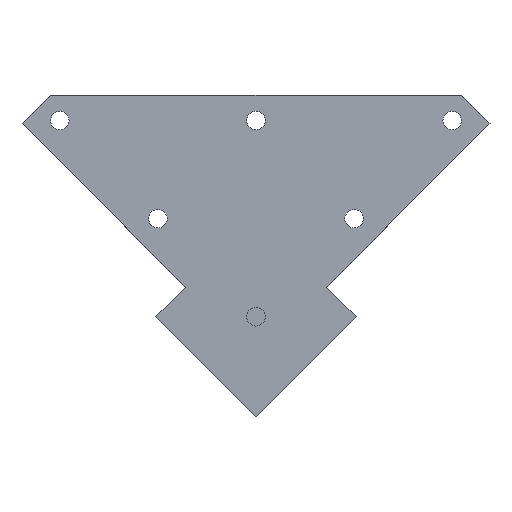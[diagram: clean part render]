
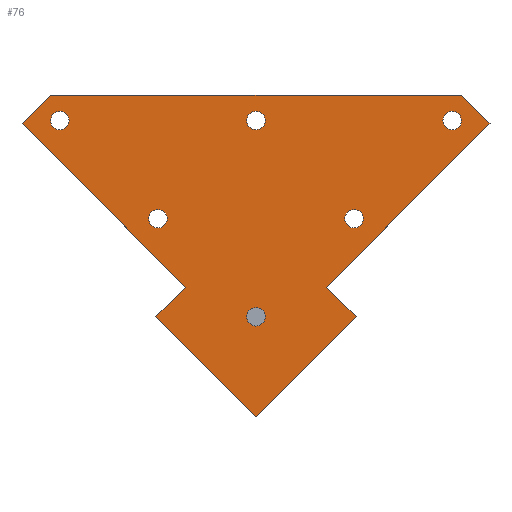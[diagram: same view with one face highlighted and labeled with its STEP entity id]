
A CAD part, top view. The second image highlights one B-rep face of the part: STEP entity #76.
In plain terms, the highlighted planar face has unit normal (0, 0, 1).
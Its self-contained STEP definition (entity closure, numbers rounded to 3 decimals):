
#76 = ADVANCED_FACE( '', ( #174, #175, #176, #177, #178, #179, #180 ), #181, .T. );
#174 = FACE_BOUND( '', #292, .T. );
#175 = FACE_BOUND( '', #293, .T. );
#176 = FACE_BOUND( '', #294, .T. );
#177 = FACE_BOUND( '', #295, .T. );
#178 = FACE_BOUND( '', #296, .T. );
#179 = FACE_BOUND( '', #297, .T. );
#180 = FACE_OUTER_BOUND( '', #298, .T. );
#181 = PLANE( '', #299 );
#292 = EDGE_LOOP( '', ( #461 ) );
#293 = EDGE_LOOP( '', ( #462 ) );
#294 = EDGE_LOOP( '', ( #463 ) );
#295 = EDGE_LOOP( '', ( #464 ) );
#296 = EDGE_LOOP( '', ( #465 ) );
#297 = EDGE_LOOP( '', ( #466 ) );
#298 = EDGE_LOOP( '', ( #467, #468, #469, #470, #471, #472, #473, #474, #475 ) );
#299 = AXIS2_PLACEMENT_3D( '', #476, #477, #478 );
#461 = ORIENTED_EDGE( '', *, *, #664, .F. );
#462 = ORIENTED_EDGE( '', *, *, #668, .F. );
#463 = ORIENTED_EDGE( '', *, *, #669, .F. );
#464 = ORIENTED_EDGE( '', *, *, #670, .F. );
#465 = ORIENTED_EDGE( '', *, *, #671, .F. );
#466 = ORIENTED_EDGE( '', *, *, #666, .F. );
#467 = ORIENTED_EDGE( '', *, *, #640, .T. );
#468 = ORIENTED_EDGE( '', *, *, #672, .T. );
#469 = ORIENTED_EDGE( '', *, *, #673, .T. );
#470 = ORIENTED_EDGE( '', *, *, #650, .T. );
#471 = ORIENTED_EDGE( '', *, *, #674, .T. );
#472 = ORIENTED_EDGE( '', *, *, #675, .T. );
#473 = ORIENTED_EDGE( '', *, *, #676, .T. );
#474 = ORIENTED_EDGE( '', *, *, #677, .T. );
#475 = ORIENTED_EDGE( '', *, *, #618, .T. );
#476 = CARTESIAN_POINT( '', ( 0., 0., 2. ) );
#477 = DIRECTION( '', ( 0., 0., 1. ) );
#478 = DIRECTION( '', ( 1., 0., 0. ) );
#618 = EDGE_CURVE( '', #720, #718, #721, .T. );
#640 = EDGE_CURVE( '', #718, #758, #760, .T. );
#650 = EDGE_CURVE( '', #775, #773, #776, .T. );
#664 = EDGE_CURVE( '', #796, #796, #797, .T. );
#666 = EDGE_CURVE( '', #799, #799, #800, .T. );
#668 = EDGE_CURVE( '', #802, #802, #803, .T. );
#669 = EDGE_CURVE( '', #804, #804, #805, .T. );
#670 = EDGE_CURVE( '', #806, #806, #807, .T. );
#671 = EDGE_CURVE( '', #808, #808, #809, .T. );
#672 = EDGE_CURVE( '', #758, #810, #811, .T. );
#673 = EDGE_CURVE( '', #810, #775, #812, .T. );
#674 = EDGE_CURVE( '', #773, #813, #814, .T. );
#675 = EDGE_CURVE( '', #813, #815, #816, .T. );
#676 = EDGE_CURVE( '', #815, #817, #818, .T. );
#677 = EDGE_CURVE( '', #817, #720, #819, .T. );
#718 = VERTEX_POINT( '', #866 );
#720 = VERTEX_POINT( '', #869 );
#721 = LINE( '', #870, #871 );
#758 = VERTEX_POINT( '', #921 );
#760 = LINE( '', #924, #925 );
#773 = VERTEX_POINT( '', #941 );
#775 = VERTEX_POINT( '', #944 );
#776 = LINE( '', #945, #946 );
#796 = VERTEX_POINT( '', #976 );
#797 = CIRCLE( '', #977, 3.2 );
#799 = VERTEX_POINT( '', #979 );
#800 = CIRCLE( '', #980, 3.2 );
#802 = VERTEX_POINT( '', #982 );
#803 = CIRCLE( '', #983, 3.2 );
#804 = VERTEX_POINT( '', #984 );
#805 = CIRCLE( '', #985, 3.2 );
#806 = VERTEX_POINT( '', #986 );
#807 = CIRCLE( '', #987, 3.2 );
#808 = VERTEX_POINT( '', #988 );
#809 = CIRCLE( '', #989, 3.2 );
#810 = VERTEX_POINT( '', #990 );
#811 = LINE( '', #991, #992 );
#812 = LINE( '', #993, #994 );
#813 = VERTEX_POINT( '', #995 );
#814 = LINE( '', #996, #997 );
#815 = VERTEX_POINT( '', #998 );
#816 = LINE( '', #999, #1000 );
#817 = VERTEX_POINT( '', #1001 );
#818 = LINE( '', #1002, #1003 );
#819 = LINE( '', #1004, #1005 );
#866 = CARTESIAN_POINT( '', ( -71.06, 76.72, 2. ) );
#869 = CARTESIAN_POINT( '', ( 71.06, 76.72, 2. ) );
#870 = CARTESIAN_POINT( '', ( 71.06, 76.72, 2. ) );
#871 = VECTOR( '', #1048, 1000. );
#921 = CARTESIAN_POINT( '', ( -80.966, 66.814, 2. ) );
#924 = CARTESIAN_POINT( '', ( -71.06, 76.72, 2. ) );
#925 = VECTOR( '', #1078, 1000. );
#941 = CARTESIAN_POINT( '', ( 0., -34.648, 2. ) );
#944 = CARTESIAN_POINT( '', ( -34.648, 0., 2. ) );
#945 = CARTESIAN_POINT( '', ( -34.648, 0., 2. ) );
#946 = VECTOR( '', #1089, 1000. );
#976 = CARTESIAN_POINT( '', ( -64.68, 67.88, 2. ) );
#977 = AXIS2_PLACEMENT_3D( '', #1100, #1101, #1102 );
#979 = CARTESIAN_POINT( '', ( 71.08, 67.88, 2. ) );
#980 = AXIS2_PLACEMENT_3D( '', #1103, #1104, #1105 );
#982 = CARTESIAN_POINT( '', ( -30.74, 33.94, 2. ) );
#983 = AXIS2_PLACEMENT_3D( '', #1106, #1107, #1108 );
#984 = CARTESIAN_POINT( '', ( 3.2, 0., 2. ) );
#985 = AXIS2_PLACEMENT_3D( '', #1109, #1110, #1111 );
#986 = CARTESIAN_POINT( '', ( 3.2, 67.88, 2. ) );
#987 = AXIS2_PLACEMENT_3D( '', #1112, #1113, #1114 );
#988 = CARTESIAN_POINT( '', ( 37.14, 33.94, 2. ) );
#989 = AXIS2_PLACEMENT_3D( '', #1115, #1116, #1117 );
#990 = CARTESIAN_POINT( '', ( -24.4, 10.248, 2. ) );
#991 = CARTESIAN_POINT( '', ( -80.966, 66.814, 2. ) );
#992 = VECTOR( '', #1118, 1000. );
#993 = CARTESIAN_POINT( '', ( -24.4, 10.248, 2. ) );
#994 = VECTOR( '', #1119, 1000. );
#995 = CARTESIAN_POINT( '', ( 34.648, 0., 2. ) );
#996 = CARTESIAN_POINT( '', ( 0., -34.648, 2. ) );
#997 = VECTOR( '', #1120, 1000. );
#998 = CARTESIAN_POINT( '', ( 24.4, 10.248, 2. ) );
#999 = CARTESIAN_POINT( '', ( 34.648, 0., 2. ) );
#1000 = VECTOR( '', #1121, 1000. );
#1001 = CARTESIAN_POINT( '', ( 80.966, 66.814, 2. ) );
#1002 = CARTESIAN_POINT( '', ( 24.4, 10.248, 2. ) );
#1003 = VECTOR( '', #1122, 1000. );
#1004 = CARTESIAN_POINT( '', ( 80.966, 66.814, 2. ) );
#1005 = VECTOR( '', #1123, 1000. );
#1048 = DIRECTION( '', ( -1., 0., 0. ) );
#1078 = DIRECTION( '', ( -0.707, -0.707, 0. ) );
#1089 = DIRECTION( '', ( 0.707, -0.707, 0. ) );
#1100 = CARTESIAN_POINT( '', ( -67.88, 67.88, 2. ) );
#1101 = DIRECTION( '', ( 0., 0., 1. ) );
#1102 = DIRECTION( '', ( 1., 0., 0. ) );
#1103 = CARTESIAN_POINT( '', ( 67.88, 67.88, 2. ) );
#1104 = DIRECTION( '', ( 0., 0., 1. ) );
#1105 = DIRECTION( '', ( 1., 0., 0. ) );
#1106 = CARTESIAN_POINT( '', ( -33.94, 33.94, 2. ) );
#1107 = DIRECTION( '', ( 0., 0., 1. ) );
#1108 = DIRECTION( '', ( 1., 0., 0. ) );
#1109 = CARTESIAN_POINT( '', ( 0., 0., 2. ) );
#1110 = DIRECTION( '', ( 0., 0., 1. ) );
#1111 = DIRECTION( '', ( 1., 0., 0. ) );
#1112 = CARTESIAN_POINT( '', ( 0., 67.88, 2. ) );
#1113 = DIRECTION( '', ( 0., 0., 1. ) );
#1114 = DIRECTION( '', ( 1., 0., 0. ) );
#1115 = CARTESIAN_POINT( '', ( 33.94, 33.94, 2. ) );
#1116 = DIRECTION( '', ( 0., 0., 1. ) );
#1117 = DIRECTION( '', ( 1., 0., 0. ) );
#1118 = DIRECTION( '', ( 0.707, -0.707, 0. ) );
#1119 = DIRECTION( '', ( -0.707, -0.707, 0. ) );
#1120 = DIRECTION( '', ( 0.707, 0.707, 0. ) );
#1121 = DIRECTION( '', ( -0.707, 0.707, 0. ) );
#1122 = DIRECTION( '', ( 0.707, 0.707, 0. ) );
#1123 = DIRECTION( '', ( -0.707, 0.707, 0. ) );
